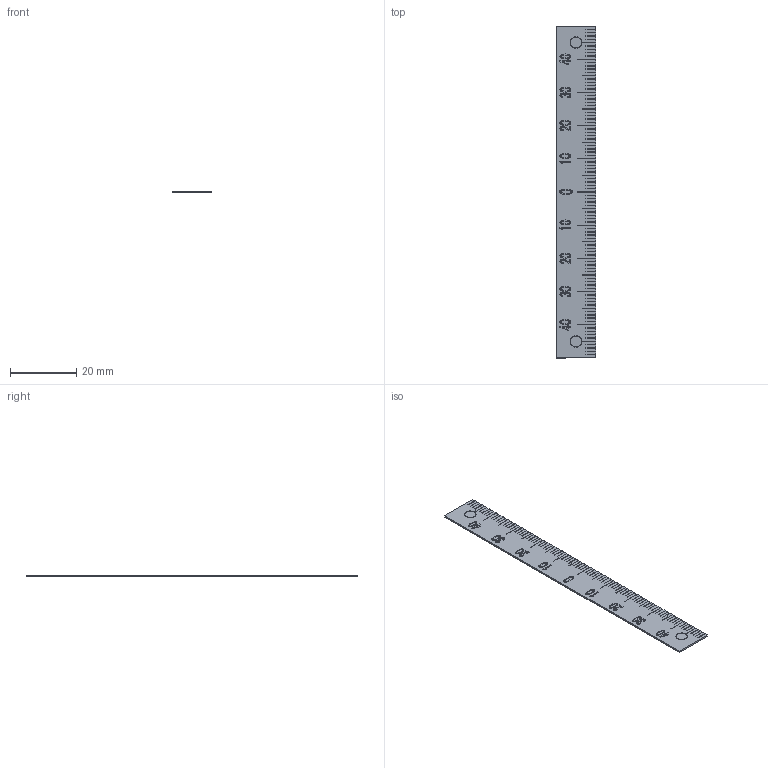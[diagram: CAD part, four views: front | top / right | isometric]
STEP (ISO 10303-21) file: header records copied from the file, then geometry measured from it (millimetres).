
FILE_DESCRIPTION (( 'STEP AP203' ), '1' );
FILE_NAME ('es1n-d5050.STEP', '2023-06-15T07:05:10', ( '' ), ( '' ), 'SwSTEP 2.0', 'SolidWorks 2021', '' );
FILE_SCHEMA (( 'CONFIG_CONTROL_DESIGN' ));
Length unit declared in the file: millimetre
Products named in the file (1): es1n-d5050
Bounding box: 12 x 100 x 0.5 mm (x, y, z)
Volume: 599.3 mm3; surface area: 2521.2 mm2
Topology: 1 solids, 1 shells, 716 faces, 2046 edges, 1364 vertices
Faces by surface type: plane 490, bspline 218, cylinder 8
Entity records: 31859 total; most frequent: CARTESIAN_POINT 14569, ORIENTED_EDGE 4092, DIRECTION 2624, EDGE_CURVE 2046, VECTOR 1594, LINE 1594, VERTEX_POINT 1364, EDGE_LOOP 748
